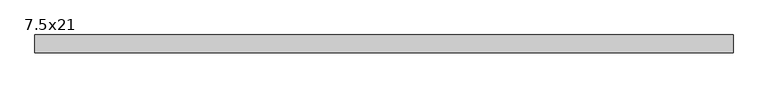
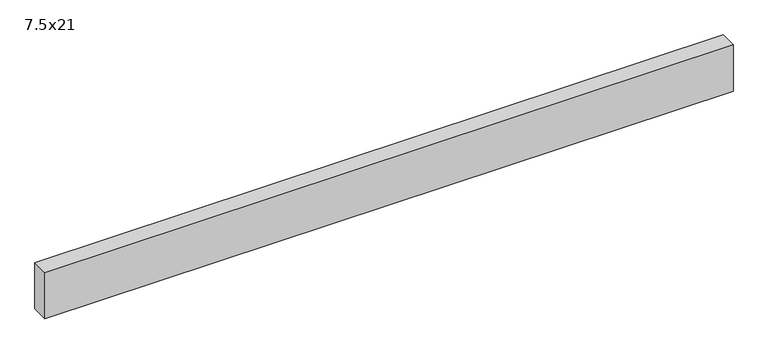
"""IFC4 building model written with IfcOpenShell, lengths in millimetres: beam geometry, C&L poutre bois : 7.5x21."""

from ifc_helpers import new_model, si_unit, frame, origin, place, context, project, spatial, polyline, outline, extrude, source, transform, mapped, element, save


def beam_7_5x21_a9db6baa(model_context):
    return source(origin(), model_context, "Body", "SweptSolid", [
        extrude(outline(polyline([(1480.0, 37.5), (1480.0, -37.5), (-1480.0, -37.5), (-1480.0, 37.5), (1480.0, 37.5)])), frame((0.0, 0.0, -105.0), z_axis=(0.0, 0.0, 1.0), x_axis=(1.0, 0.0, 0.0)), (0.0, 0.0, 1.0), 210.0),
    ])


if __name__ == "__main__":
    model = new_model("IFC4")
    model_context = context("Model", 3, world=origin())
    ifc_project = project(units=[si_unit("LENGTHUNIT", "METRE", prefix="MILLI")], contexts=[model_context])
    site = spatial("IfcSite", under=ifc_project)
    building = spatial("IfcBuilding", under=site)
    placement = place(None, origin())
    beam_7_5x21_shape = beam_7_5x21_a9db6baa(model_context)
    element("IfcBeam", 1, ObjectType="C&L poutre bois : 7.5x21", at=placement, inside=building, context=model_context, shape_type="MappedRepresentation", body=[
        mapped(beam_7_5x21_shape, transform((0.0, 0.0, 0.0), x_axis=(1.0, 0.0, 0.0), y_axis=(0.0, 1.0, 0.0), z_axis=(0.0, 0.0, 1.0))),
    ])
    save(model, "model.ifc")
